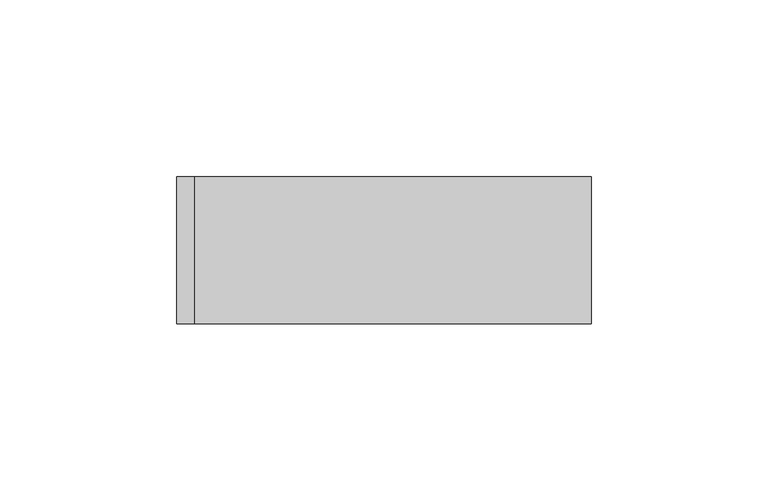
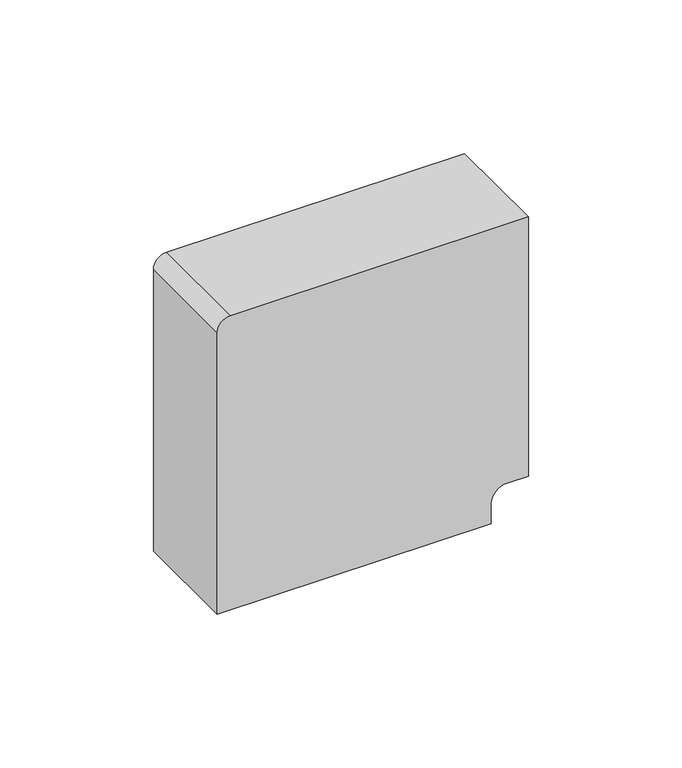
"""IFC4 building model written with IfcOpenShell, lengths in millimetres: proxy geometry, Поворот_на_90_гр.КМП : Поворот на 90 гр. КМП 100x40."""

import ifcopenshell
import ifcopenshell.guid

model = None  # the IFC model being written
_history = None  # IfcOwnerHistory: only IFC2X3 demands one
_inside = {}  # id of a spatial element -> (the spatial element, [elements in it])
_under = {}  # id of a project, library or spatial element -> (it, [spatial elements below it])
_declared = {}  # id of a project -> (the project, [libraries it declares])
_typed = {}  # id of a type object -> (the type object, [elements of that type])
_made_of = {}  # id of a material, layer set ... -> (it, [elements and type objects made of it])


def new_model(schema):
    """Start an empty IFC model of exactly this schema.

    Asked for "IFC4X3", IfcOpenShell would pick the latest addendum, in which some entities
    have other attributes; the version numbers below select the first issue.
    IFC2X3 requires an IfcOwnerHistory on every rooted entity: one is made here for all.
    """
    global model, _history
    if schema == "IFC4X3":
        model = ifcopenshell.file(schema_version=(4, 3, 0, 0))
    else:
        model = ifcopenshell.file(schema=schema)
    _inside.clear()
    _under.clear()
    _declared.clear()
    _typed.clear()
    _made_of.clear()
    _history = None
    if model.schema == "IFC2X3":
        org = make("IfcOrganization", Name="unknown")
        user = make(
            "IfcPersonAndOrganization",
            ThePerson=make("IfcPerson", FamilyName="unknown"),
            TheOrganization=org,
        )
        app = make(
            "IfcApplication",
            ApplicationDeveloper=org,
            Version="unknown",
            ApplicationFullName="unknown",
            ApplicationIdentifier="unknown",
        )
        _history = make(
            "IfcOwnerHistory",
            OwningUser=user,
            OwningApplication=app,
            ChangeAction="ADDED",
            CreationDate=0,
        )
    return model


def make(cls, **values):
    """One entity of the class cls with the attributes given. An attribute that is None is left unset."""
    return model.create_entity(
        cls, **{name: value for name, value in values.items() if value is not None}
    )


def rooted(cls, **values):
    """An entity with a GlobalId (a new one), such as an element, a storey or a relation."""
    return make(cls, GlobalId=ifcopenshell.guid.new(), OwnerHistory=_history, **values)


def si_unit(unit_type, name, prefix=None):
    """IfcSIUnit, for example si_unit("LENGTHUNIT", "METRE", prefix="MILLI")."""
    return make("IfcSIUnit", UnitType=unit_type, Prefix=prefix, Name=name)


def assignment(units):
    """IfcUnitAssignment: the units of a project."""
    return None if units is None else make("IfcUnitAssignment", Units=units)


def point(xyz):
    """IfcCartesianPoint."""
    return None if xyz is None else make("IfcCartesianPoint", Coordinates=xyz)


def direction(xyz):
    """IfcDirection."""
    return None if xyz is None else make("IfcDirection", DirectionRatios=xyz)


def frame(location, z_axis=None, x_axis=None):
    """IfcAxis2Placement3D, a coordinate frame: its origin and axes. An axis left out is left unset."""
    return make(
        "IfcAxis2Placement3D",
        Location=point(location),
        Axis=direction(z_axis),
        RefDirection=direction(x_axis),
    )


def frame_2d(location, x_axis=None):
    """IfcAxis2Placement2D, a coordinate frame in the plane: its origin and x axis."""
    return make(
        "IfcAxis2Placement2D", Location=point(location), RefDirection=direction(x_axis)
    )


def origin():
    """The frame at (0, 0, 0) with its axes left unset."""
    return frame((0.0, 0.0, 0.0))


def place(relative_to, where):
    """IfcLocalPlacement: puts the frame where relative to a parent placement (None: the world)."""
    return make(
        "IfcLocalPlacement", PlacementRelTo=relative_to, RelativePlacement=where
    )


def context(
    kind, dimensions, precision=None, world=None, true_north=None, identifier=None
):
    """IfcGeometricRepresentationContext, for example the 3D "Model" context."""
    return make(
        "IfcGeometricRepresentationContext",
        ContextIdentifier=identifier,
        ContextType=kind,
        CoordinateSpaceDimension=dimensions,
        Precision=precision,
        WorldCoordinateSystem=world,
        TrueNorth=true_north,
    )


def project(units=None, contexts=None):
    """IfcProject with its units and contexts."""
    return rooted(
        "IfcProject",
        Name="project",
        RepresentationContexts=contexts,
        UnitsInContext=assignment(units),
    )


def spatial(cls, under=None, at=None, **own):
    """A site, building, storey or space (cls), placed at a placement, below another one or the project."""
    s = rooted(cls, ObjectPlacement=at, **own)
    if under is not None:
        _under.setdefault(under.id(), (under, []))[1].append(s)
    return s


def polyline(points):
    """IfcPolyline through the points."""
    return make("IfcPolyline", Points=[point(p) for p in points])


def circle_curve(where, radius):
    """IfcCircle in the frame where."""
    return make("IfcCircle", Position=where, Radius=radius)


def trimmed(basis, trim1, trim2, sense, master):
    """IfcTrimmedCurve: the piece of a basis curve between two trims."""
    return make(
        "IfcTrimmedCurve",
        BasisCurve=basis,
        Trim1=trim1,
        Trim2=trim2,
        SenseAgreement=sense,
        MasterRepresentation=master,
    )


def segment(curve, same_sense, transition):
    """IfcCompositeCurveSegment."""
    return make(
        "IfcCompositeCurveSegment",
        Transition=transition,
        SameSense=same_sense,
        ParentCurve=curve,
    )


def composite_curve(segments, self_intersect=None):
    """IfcCompositeCurve: segments joined end to end."""
    return make("IfcCompositeCurve", Segments=segments, SelfIntersect=self_intersect)


def outline(outer, holes=None, kind="AREA"):
    """IfcArbitraryClosedProfileDef: a profile drawn as a closed curve; with holes, ...WithVoids."""
    if holes is None:
        return make("IfcArbitraryClosedProfileDef", ProfileType=kind, OuterCurve=outer)
    return make(
        "IfcArbitraryProfileDefWithVoids",
        ProfileType=kind,
        OuterCurve=outer,
        InnerCurves=holes,
    )


def extrude(swept, where, along, depth):
    """IfcExtrudedAreaSolid: the profile swept, set in the frame where, extruded along a direction by depth."""
    return make(
        "IfcExtrudedAreaSolid",
        SweptArea=swept,
        Position=where,
        ExtrudedDirection=direction(along),
        Depth=depth,
    )


def shape(context_of_items, identifier, shape_type, items):
    """IfcShapeRepresentation: the items that make up one representation, for example the "Body"."""
    return make(
        "IfcShapeRepresentation",
        ContextOfItems=context_of_items,
        RepresentationIdentifier=identifier,
        RepresentationType=shape_type,
        Items=items,
    )


def source(mapping_origin, context_of_items, identifier, shape_type, items):
    """IfcRepresentationMap: a shape defined once, which mapped items show again and again."""
    return make(
        "IfcRepresentationMap",
        MappingOrigin=mapping_origin,
        MappedRepresentation=shape(context_of_items, identifier, shape_type, items),
    )


def transform(
    local_origin,
    x_axis=None,
    y_axis=None,
    z_axis=None,
    scale=None,
    scale2=None,
    scale3=None,
    uniform=True,
):
    """IfcCartesianTransformationOperator3D, or its non-uniform kind. x_axis, y_axis, z_axis: its Axis1, 2, 3."""
    if uniform:
        return make(
            "IfcCartesianTransformationOperator3D",
            Axis1=direction(x_axis),
            Axis2=direction(y_axis),
            LocalOrigin=point(local_origin),
            Scale=scale,
            Axis3=direction(z_axis),
        )
    return make(
        "IfcCartesianTransformationOperator3DnonUniform",
        Axis1=direction(x_axis),
        Axis2=direction(y_axis),
        LocalOrigin=point(local_origin),
        Scale=scale,
        Axis3=direction(z_axis),
        Scale2=scale2,
        Scale3=scale3,
    )


def mapped(mapping_source, mapping_target):
    """IfcMappedItem: shows the shape of a source again, moved by a transform."""
    return make(
        "IfcMappedItem", MappingSource=mapping_source, MappingTarget=mapping_target
    )


def made_of(thing, what):
    """Note that an element or type object is made of a material, layer set ...; save() writes the relation."""
    if what is not None:
        _made_of.setdefault(what.id(), (what, []))[1].append(thing)
    return thing


def element(
    cls,
    number,
    at=None,
    inside=None,
    cuts=None,
    type_object=None,
    material=None,
    context=None,
    identifier="Body",
    shape_type=None,
    held_by="IfcProductDefinitionShape",
    body=None,
    shapes=None,
    **own,
):
    """One element of the class cls, such as IfcWall. Its Tag is "e" and its number.

    at: its placement. inside: the storey or other place that contains it. cuts: it is an
    opening in that element (IfcRelVoidsElement). A single representation is given by context,
    identifier, shape_type and body (its items); several are given by shapes. held_by: the class
    of the entity that holds the representations. save() writes the other relations.
    """
    e = rooted(cls, Tag="e%d" % number, ObjectPlacement=at, **own)
    if body is not None:
        shapes = [shape(context, identifier, shape_type, body)]
    if shapes is not None:
        e.Representation = make(held_by, Representations=shapes)
    if inside is not None:
        _inside.setdefault(inside.id(), (inside, []))[1].append(e)
    if cuts is not None:
        rooted(
            "IfcRelVoidsElement", RelatingBuildingElement=cuts, RelatedOpeningElement=e
        )
    if type_object is not None:
        _typed.setdefault(type_object.id(), (type_object, []))[1].append(e)
    return made_of(e, material)


def aggregate(whole, parts):
    """IfcRelAggregates: a whole, such as a stair, and the parts it consists of."""
    return rooted("IfcRelAggregates", RelatingObject=whole, RelatedObjects=parts)


def save(model, path):
    """Write the relations noted so far, then the file.

    IfcRelAggregates (storeys below a building ...), IfcRelContainedInSpatialStructure (elements
    in a storey), IfcRelDefinesByType, IfcRelAssociatesMaterial and IfcRelDeclares: one each for
    every whole, place, type object, material and project.
    """
    for whole, parts in _under.values():
        aggregate(whole, parts)
    for where, things in _inside.values():
        rooted(
            "IfcRelContainedInSpatialStructure",
            RelatedElements=things,
            RelatingStructure=where,
        )
    for kind, things in _typed.values():
        rooted("IfcRelDefinesByType", RelatedObjects=things, RelatingType=kind)
    for what, things in _made_of.values():
        rooted("IfcRelAssociatesMaterial", RelatedObjects=things, RelatingMaterial=what)
    for by, libraries in _declared.values():
        rooted("IfcRelDeclares", RelatingContext=by, RelatedDefinitions=libraries)
    model.write(path)


def generic_models_eb1d2137(model_context):
    return source(origin(), model_context, "Body", "SweptSolid", [
        extrude(outline(composite_curve([segment(polyline([(2.0580612, -14.0), (10.0580612, -14.0)]), True, "CONTINUOUS"), segment(trimmed(circle_curve(frame_2d((10.0580612, -8.0)), 6.0), [point((10.0580612, -14.0))], [point((16.0580612, -8.0))], True, "CARTESIAN"), True, "CONTINUOUS"), segment(polyline([(16.0580612, -8.0), (16.0580612, 0.0), (119.0580612, 0.0), (119.0580612, -111.9954444)]), True, "CONTINUOUS"), segment(trimmed(circle_curve(frame_2d((114.0535056, -111.9954444)), 5.0045556), [point((119.0580612, -111.9954444))], [point((114.0535056, -117.0))], False, "CARTESIAN"), True, "CONTINUOUS"), segment(polyline([(114.0535056, -117.0), (2.0580612, -117.0), (2.0580612, -14.0)]), True, "CONTINUOUS")], self_intersect=False)), frame((0.0, -41.5, 0.0), z_axis=(0.0, 1.0, 0.0), x_axis=(0.0, 0.0, 1.0)), (0.0, 0.0, 1.0), 41.5),
    ])


if __name__ == "__main__":
    model = new_model("IFC4")
    model_context = context("Model", 3, world=origin())
    ifc_project = project(units=[si_unit("LENGTHUNIT", "METRE", prefix="MILLI")], contexts=[model_context])
    site = spatial("IfcSite", under=ifc_project)
    building = spatial("IfcBuilding", under=site)
    placement = place(None, origin())
    generic_models_shape = generic_models_eb1d2137(model_context)
    element("IfcBuildingElementProxy", 1, Name="Поворот_на_90_гр.КМП : Поворот на 90 гр. КМП 100x40", ObjectType="Поворот_на_90_гр.КМП : Поворот на 90 гр. КМП 100x40", at=placement, inside=building, context=model_context, shape_type="MappedRepresentation", body=[
        mapped(generic_models_shape, transform((0.0, 0.0, 0.0), x_axis=(1.0, 0.0, 0.0), y_axis=(0.0, 1.0, 0.0), z_axis=(0.0, 0.0, 1.0))),
    ])
    save(model, "model.ifc")
